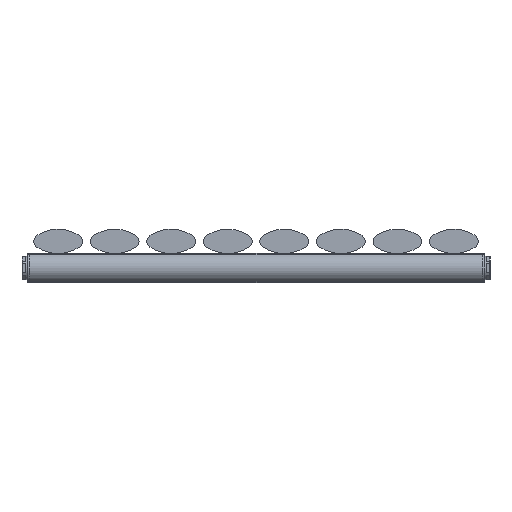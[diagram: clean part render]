
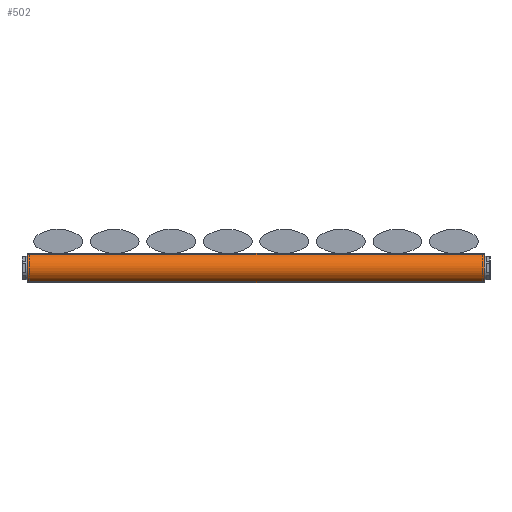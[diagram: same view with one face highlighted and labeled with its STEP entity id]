
A CAD part, left-side view. The second image highlights one B-rep face of the part: STEP entity #502.
In plain terms, the highlighted cylindrical face has radius 15 mm (diameter 30 mm), a full revolution.
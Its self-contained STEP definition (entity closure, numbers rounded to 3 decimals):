
#176=FACE_BOUND('',#216,.T.);
#185=FACE_OUTER_BOUND('',#215,.T.);
#215=EDGE_LOOP('',(#380));
#216=EDGE_LOOP('',(#381));
#253=CIRCLE('',#577,15.);
#254=CIRCLE('',#578,15.);
#282=VERTEX_POINT('',#850);
#283=VERTEX_POINT('',#852);
#323=EDGE_CURVE('',#282,#282,#253,.T.);
#324=EDGE_CURVE('',#283,#283,#254,.T.);
#380=ORIENTED_EDGE('',*,*,#323,.F.);
#381=ORIENTED_EDGE('',*,*,#324,.F.);
#493=CYLINDRICAL_SURFACE('',#576,15.);
#502=ADVANCED_FACE('',(#185,#176),#493,.T.);
#576=AXIS2_PLACEMENT_3D('',#849,#662,#663);
#577=AXIS2_PLACEMENT_3D('',#851,#664,#665);
#578=AXIS2_PLACEMENT_3D('',#853,#666,#667);
#662=DIRECTION('center_axis',(0.,0.,1.));
#663=DIRECTION('ref_axis',(-1.,0.,0.));
#664=DIRECTION('center_axis',(0.,0.,1.));
#665=DIRECTION('ref_axis',(-1.,0.,0.));
#666=DIRECTION('center_axis',(0.,0.,-1.));
#667=DIRECTION('ref_axis',(-1.,0.,0.));
#849=CARTESIAN_POINT('Origin',(0.,-15.,0.));
#850=CARTESIAN_POINT('',(15.,-15.,468.));
#851=CARTESIAN_POINT('Origin',(0.,-15.,468.));
#852=CARTESIAN_POINT('',(15.,-15.,0.));
#853=CARTESIAN_POINT('Origin',(0.,-15.,0.));
